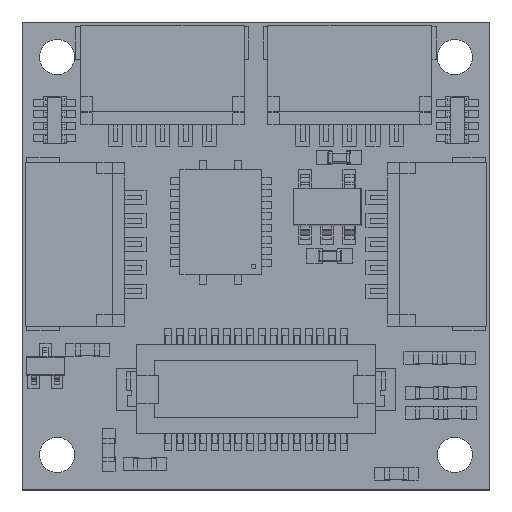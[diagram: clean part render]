
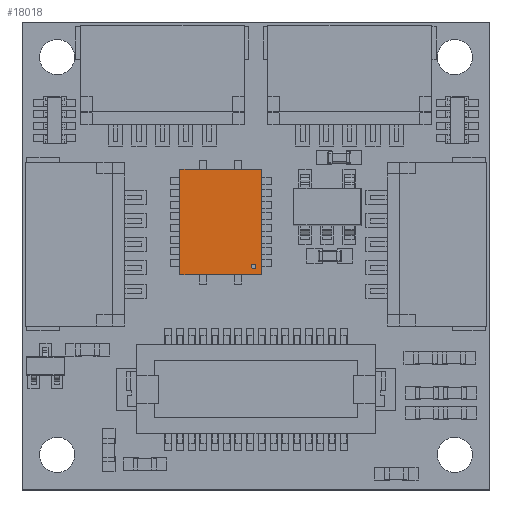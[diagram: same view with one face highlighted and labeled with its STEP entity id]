
A CAD part, top view. The second image highlights one B-rep face of the part: STEP entity #18018.
In plain terms, the highlighted planar face has unit normal (0, 0, 1).
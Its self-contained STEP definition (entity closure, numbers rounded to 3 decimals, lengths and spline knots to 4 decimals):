
#14480 = PLANE('',#14481);
#14481 = AXIS2_PLACEMENT_3D('',#14482,#14483,#14484);
#14482 = CARTESIAN_POINT('',(20.25,19.2,0.625));
#14483 = DIRECTION('',(0.,-1.,0.));
#14484 = DIRECTION('',(-1.,0.,0.));
#14505 = VERTEX_POINT('',#14506);
#14506 = CARTESIAN_POINT('',(20.25,19.2,1.505));
#14520 = PLANE('',#14521);
#14521 = AXIS2_PLACEMENT_3D('',#14522,#14523,#14524);
#14522 = CARTESIAN_POINT('',(20.25,23.7,0.625));
#14523 = DIRECTION('',(1.,0.,0.));
#14524 = DIRECTION('',(0.,-1.,0.));
#14532 = EDGE_CURVE('',#14505,#14533,#14535,.T.);
#14533 = VERTEX_POINT('',#14534);
#14534 = CARTESIAN_POINT('',(16.75,19.2,1.505));
#14535 = SURFACE_CURVE('',#14536,(#14540,#14547),.PCURVE_S1.);
#14536 = LINE('',#14537,#14538);
#14537 = CARTESIAN_POINT('',(20.25,19.2,1.505));
#14538 = VECTOR('',#14539,1.);
#14539 = DIRECTION('',(-1.,0.,0.));
#14540 = PCURVE('',#14480,#14541);
#14541 = DEFINITIONAL_REPRESENTATION('',(#14542),#14546);
#14542 = LINE('',#14543,#14544);
#14543 = CARTESIAN_POINT('',(0.,-0.88));
#14544 = VECTOR('',#14545,1.);
#14545 = DIRECTION('',(1.,0.));
#14546 = ( GEOMETRIC_REPRESENTATION_CONTEXT(2) 
PARAMETRIC_REPRESENTATION_CONTEXT() REPRESENTATION_CONTEXT('2D SPACE',''
  ) );
#14547 = PCURVE('',#14548,#14553);
#14548 = PLANE('',#14549);
#14549 = AXIS2_PLACEMENT_3D('',#14550,#14551,#14552);
#14550 = CARTESIAN_POINT('',(18.5,21.45,1.505));
#14551 = DIRECTION('',(0.,0.,-1.));
#14552 = DIRECTION('',(1.,0.,0.));
#14553 = DEFINITIONAL_REPRESENTATION('',(#14554),#14558);
#14554 = LINE('',#14555,#14556);
#14555 = CARTESIAN_POINT('',(1.75,2.25));
#14556 = VECTOR('',#14557,1.);
#14557 = DIRECTION('',(-1.,0.));
#14558 = ( GEOMETRIC_REPRESENTATION_CONTEXT(2) 
PARAMETRIC_REPRESENTATION_CONTEXT() REPRESENTATION_CONTEXT('2D SPACE',''
  ) );
#14576 = PLANE('',#14577);
#14577 = AXIS2_PLACEMENT_3D('',#14578,#14579,#14580);
#14578 = CARTESIAN_POINT('',(16.75,19.2,0.625));
#14579 = DIRECTION('',(-1.,0.,0.));
#14580 = DIRECTION('',(0.,1.,0.));
#16104 = PLANE('',#16105);
#16105 = AXIS2_PLACEMENT_3D('',#16106,#16107,#16108);
#16106 = CARTESIAN_POINT('',(16.75,23.7,0.625));
#16107 = DIRECTION('',(0.,1.,0.));
#16108 = DIRECTION('',(1.,0.,0.));
#17313 = VERTEX_POINT('',#17314);
#17314 = CARTESIAN_POINT('',(20.25,23.7,1.505));
#17335 = EDGE_CURVE('',#17313,#14505,#17336,.T.);
#17336 = SURFACE_CURVE('',#17337,(#17341,#17348),.PCURVE_S1.);
#17337 = LINE('',#17338,#17339);
#17338 = CARTESIAN_POINT('',(20.25,23.7,1.505));
#17339 = VECTOR('',#17340,1.);
#17340 = DIRECTION('',(0.,-1.,0.));
#17341 = PCURVE('',#14520,#17342);
#17342 = DEFINITIONAL_REPRESENTATION('',(#17343),#17347);
#17343 = LINE('',#17344,#17345);
#17344 = CARTESIAN_POINT('',(0.,-0.88));
#17345 = VECTOR('',#17346,1.);
#17346 = DIRECTION('',(1.,0.));
#17347 = ( GEOMETRIC_REPRESENTATION_CONTEXT(2) 
PARAMETRIC_REPRESENTATION_CONTEXT() REPRESENTATION_CONTEXT('2D SPACE',''
  ) );
#17348 = PCURVE('',#14548,#17349);
#17349 = DEFINITIONAL_REPRESENTATION('',(#17350),#17354);
#17350 = LINE('',#17351,#17352);
#17351 = CARTESIAN_POINT('',(1.75,-2.25));
#17352 = VECTOR('',#17353,1.);
#17353 = DIRECTION('',(0.,1.));
#17354 = ( GEOMETRIC_REPRESENTATION_CONTEXT(2) 
PARAMETRIC_REPRESENTATION_CONTEXT() REPRESENTATION_CONTEXT('2D SPACE',''
  ) );
#18018 = ADVANCED_FACE('',(#18019,#18067),#14548,.F.);
#18019 = FACE_BOUND('',#18020,.F.);
#18020 = EDGE_LOOP('',(#18021,#18022,#18045,#18066));
#18021 = ORIENTED_EDGE('',*,*,#14532,.T.);
#18022 = ORIENTED_EDGE('',*,*,#18023,.T.);
#18023 = EDGE_CURVE('',#14533,#18024,#18026,.T.);
#18024 = VERTEX_POINT('',#18025);
#18025 = CARTESIAN_POINT('',(16.75,23.7,1.505));
#18026 = SURFACE_CURVE('',#18027,(#18031,#18038),.PCURVE_S1.);
#18027 = LINE('',#18028,#18029);
#18028 = CARTESIAN_POINT('',(16.75,19.2,1.505));
#18029 = VECTOR('',#18030,1.);
#18030 = DIRECTION('',(0.,1.,0.));
#18031 = PCURVE('',#14548,#18032);
#18032 = DEFINITIONAL_REPRESENTATION('',(#18033),#18037);
#18033 = LINE('',#18034,#18035);
#18034 = CARTESIAN_POINT('',(-1.75,2.25));
#18035 = VECTOR('',#18036,1.);
#18036 = DIRECTION('',(0.,-1.));
#18037 = ( GEOMETRIC_REPRESENTATION_CONTEXT(2) 
PARAMETRIC_REPRESENTATION_CONTEXT() REPRESENTATION_CONTEXT('2D SPACE',''
  ) );
#18038 = PCURVE('',#14576,#18039);
#18039 = DEFINITIONAL_REPRESENTATION('',(#18040),#18044);
#18040 = LINE('',#18041,#18042);
#18041 = CARTESIAN_POINT('',(0.,-0.88));
#18042 = VECTOR('',#18043,1.);
#18043 = DIRECTION('',(1.,0.));
#18044 = ( GEOMETRIC_REPRESENTATION_CONTEXT(2) 
PARAMETRIC_REPRESENTATION_CONTEXT() REPRESENTATION_CONTEXT('2D SPACE',''
  ) );
#18045 = ORIENTED_EDGE('',*,*,#18046,.T.);
#18046 = EDGE_CURVE('',#18024,#17313,#18047,.T.);
#18047 = SURFACE_CURVE('',#18048,(#18052,#18059),.PCURVE_S1.);
#18048 = LINE('',#18049,#18050);
#18049 = CARTESIAN_POINT('',(16.75,23.7,1.505));
#18050 = VECTOR('',#18051,1.);
#18051 = DIRECTION('',(1.,0.,0.));
#18052 = PCURVE('',#14548,#18053);
#18053 = DEFINITIONAL_REPRESENTATION('',(#18054),#18058);
#18054 = LINE('',#18055,#18056);
#18055 = CARTESIAN_POINT('',(-1.75,-2.25));
#18056 = VECTOR('',#18057,1.);
#18057 = DIRECTION('',(1.,0.));
#18058 = ( GEOMETRIC_REPRESENTATION_CONTEXT(2) 
PARAMETRIC_REPRESENTATION_CONTEXT() REPRESENTATION_CONTEXT('2D SPACE',''
  ) );
#18059 = PCURVE('',#16104,#18060);
#18060 = DEFINITIONAL_REPRESENTATION('',(#18061),#18065);
#18061 = LINE('',#18062,#18063);
#18062 = CARTESIAN_POINT('',(0.,-0.88));
#18063 = VECTOR('',#18064,1.);
#18064 = DIRECTION('',(1.,0.));
#18065 = ( GEOMETRIC_REPRESENTATION_CONTEXT(2) 
PARAMETRIC_REPRESENTATION_CONTEXT() REPRESENTATION_CONTEXT('2D SPACE',''
  ) );
#18066 = ORIENTED_EDGE('',*,*,#17335,.T.);
#18067 = FACE_BOUND('',#18068,.F.);
#18068 = EDGE_LOOP('',(#18069));
#18069 = ORIENTED_EDGE('',*,*,#18070,.T.);
#18070 = EDGE_CURVE('',#18071,#18071,#18073,.T.);
#18071 = VERTEX_POINT('',#18072);
#18072 = CARTESIAN_POINT('',(19.7964,19.5536,1.505));
#18073 = SURFACE_CURVE('',#18074,(#18079,#18090),.PCURVE_S1.);
#18074 = CIRCLE('',#18075,0.1);
#18075 = AXIS2_PLACEMENT_3D('',#18076,#18077,#18078);
#18076 = CARTESIAN_POINT('',(19.8964,19.5536,1.505));
#18077 = DIRECTION('',(0.,0.,1.));
#18078 = DIRECTION('',(-1.,0.,0.));
#18079 = PCURVE('',#14548,#18080);
#18080 = DEFINITIONAL_REPRESENTATION('',(#18081),#18089);
#18081 = ( BOUNDED_CURVE() B_SPLINE_CURVE(2,(#18082,#18083,#18084,#18085
    ,#18086,#18087,#18088),.UNSPECIFIED.,.T.,.F.) 
B_SPLINE_CURVE_WITH_KNOTS((1,2,2,2,2,1),(-2.0944,0.,
    2.0944,4.1888,6.2832,8.3776),
.UNSPECIFIED.) CURVE() GEOMETRIC_REPRESENTATION_ITEM() 
RATIONAL_B_SPLINE_CURVE((1.,0.5,1.,0.5,1.,0.5,1.)) REPRESENTATION_ITEM(
  '') );
#18082 = CARTESIAN_POINT('',(1.296,1.896));
#18083 = CARTESIAN_POINT('',(1.296,2.07));
#18084 = CARTESIAN_POINT('',(1.446,1.983));
#18085 = CARTESIAN_POINT('',(1.596,1.896));
#18086 = CARTESIAN_POINT('',(1.446,1.81));
#18087 = CARTESIAN_POINT('',(1.296,1.723));
#18088 = CARTESIAN_POINT('',(1.296,1.896));
#18089 = ( GEOMETRIC_REPRESENTATION_CONTEXT(2) 
PARAMETRIC_REPRESENTATION_CONTEXT() REPRESENTATION_CONTEXT('2D SPACE',''
  ) );
#18090 = PCURVE('',#18091,#18096);
#18091 = PLANE('',#18092);
#18092 = AXIS2_PLACEMENT_3D('',#18093,#18094,#18095);
#18093 = CARTESIAN_POINT('',(18.5,21.45,1.505));
#18094 = DIRECTION('',(0.,0.,-1.));
#18095 = DIRECTION('',(1.,0.,0.));
#18096 = DEFINITIONAL_REPRESENTATION('',(#18097),#18105);
#18097 = ( BOUNDED_CURVE() B_SPLINE_CURVE(2,(#18098,#18099,#18100,#18101
    ,#18102,#18103,#18104),.UNSPECIFIED.,.T.,.F.) 
B_SPLINE_CURVE_WITH_KNOTS((1,2,2,2,2,1),(-2.0944,0.,
    2.0944,4.1888,6.2832,8.3776),
.UNSPECIFIED.) CURVE() GEOMETRIC_REPRESENTATION_ITEM() 
RATIONAL_B_SPLINE_CURVE((1.,0.5,1.,0.5,1.,0.5,1.)) REPRESENTATION_ITEM(
  '') );
#18098 = CARTESIAN_POINT('',(1.296,1.896));
#18099 = CARTESIAN_POINT('',(1.296,2.07));
#18100 = CARTESIAN_POINT('',(1.446,1.983));
#18101 = CARTESIAN_POINT('',(1.596,1.896));
#18102 = CARTESIAN_POINT('',(1.446,1.81));
#18103 = CARTESIAN_POINT('',(1.296,1.723));
#18104 = CARTESIAN_POINT('',(1.296,1.896));
#18105 = ( GEOMETRIC_REPRESENTATION_CONTEXT(2) 
PARAMETRIC_REPRESENTATION_CONTEXT() REPRESENTATION_CONTEXT('2D SPACE',''
  ) );
